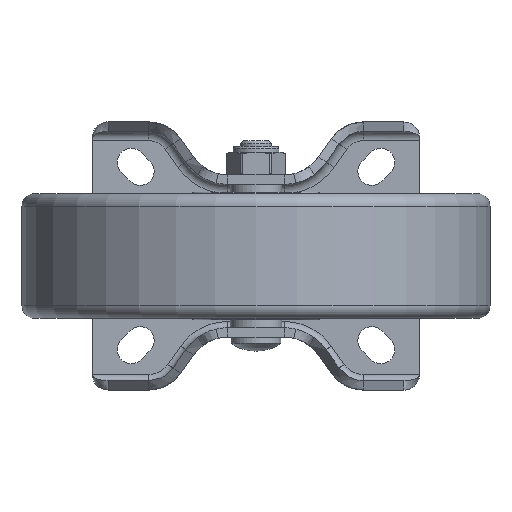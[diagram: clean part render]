
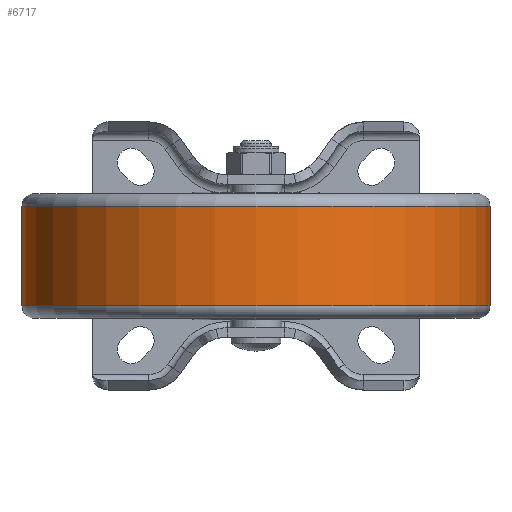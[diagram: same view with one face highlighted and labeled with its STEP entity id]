
A CAD part, front view. The second image highlights one B-rep face of the part: STEP entity #6717.
In plain terms, the highlighted cylindrical face has radius 75 mm (diameter 150 mm), a partial arc.
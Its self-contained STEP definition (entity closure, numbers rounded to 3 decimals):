
#6582=DIRECTION('',(-1.,0.,0.));
#6583=VECTOR('',#6582,32.);
#6584=CARTESIAN_POINT('',(16.,75.,0.));
#6585=LINE('',#6584,#6583);
#6586=DIRECTION('',(-1.,0.,0.));
#6587=VECTOR('',#6586,32.);
#6588=CARTESIAN_POINT('',(16.,-75.,0.));
#6589=LINE('',#6588,#6587);
#6590=CARTESIAN_POINT('',(16.,0.,0.));
#6591=DIRECTION('',(-1.,0.,0.));
#6592=DIRECTION('',(0.,1.,0.));
#6593=AXIS2_PLACEMENT_3D('',#6590,#6591,#6592);
#6668=CARTESIAN_POINT('',(-16.,0.,0.));
#6669=DIRECTION('',(-1.,0.,0.));
#6670=DIRECTION('',(0.,1.,0.));
#6671=AXIS2_PLACEMENT_3D('',#6668,#6669,#6670);
#6678=CARTESIAN_POINT('',(-16.,75.,0.));
#6680=VERTEX_POINT('',#6678);
#6687=CARTESIAN_POINT('',(16.,75.,0.));
#6689=VERTEX_POINT('',#6687);
#6690=CARTESIAN_POINT('',(-16.,-75.,0.));
#6692=VERTEX_POINT('',#6690);
#6699=CARTESIAN_POINT('',(16.,-75.,0.));
#6701=VERTEX_POINT('',#6699);
#6702=CARTESIAN_POINT('',(-22.,0.,0.));
#6703=DIRECTION('',(1.,0.,0.));
#6704=DIRECTION('',(0.,-1.,0.));
#6705=AXIS2_PLACEMENT_3D('',#6702,#6703,#6704);
#6706=CYLINDRICAL_SURFACE('',#6705,75.);
#6708=ORIENTED_EDGE('',*,*,#6707,.T.);
#6710=ORIENTED_EDGE('',*,*,#6709,.T.);
#6712=ORIENTED_EDGE('',*,*,#6711,.F.);
#6714=ORIENTED_EDGE('',*,*,#6713,.F.);
#6715=EDGE_LOOP('',(#6708,#6710,#6712,#6714));
#6716=FACE_OUTER_BOUND('',#6715,.F.);
#6594=CIRCLE('',#6593,75.);
#6672=CIRCLE('',#6671,75.);
#6707=EDGE_CURVE('',#6689,#6680,#6585,.T.);
#6709=EDGE_CURVE('',#6680,#6692,#6672,.T.);
#6711=EDGE_CURVE('',#6701,#6692,#6589,.T.);
#6713=EDGE_CURVE('',#6689,#6701,#6594,.T.);
#6717=ADVANCED_FACE('',(#6716),#6706,.T.);
